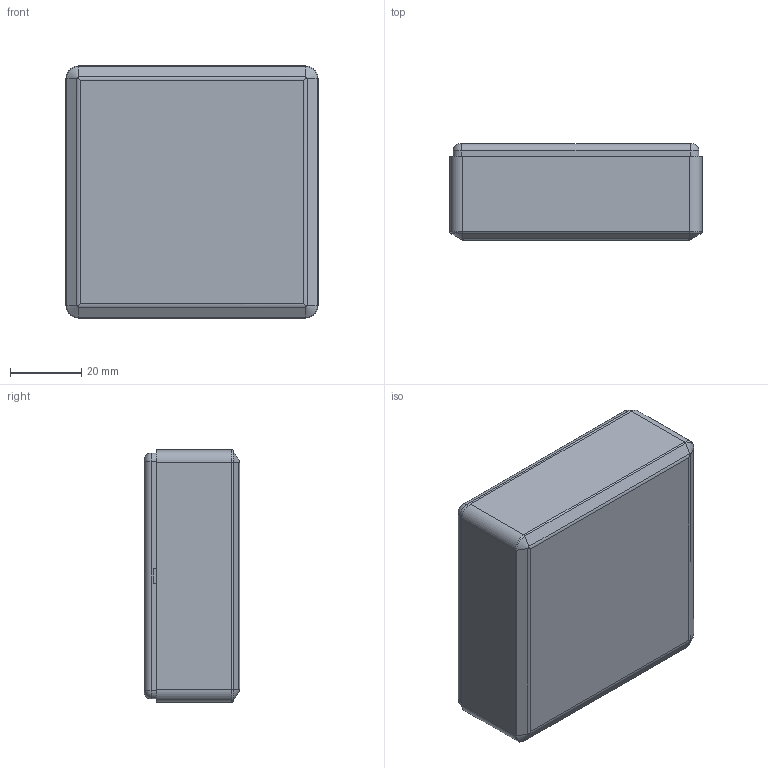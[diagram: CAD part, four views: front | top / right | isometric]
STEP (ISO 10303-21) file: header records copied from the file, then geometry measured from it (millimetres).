
FILE_DESCRIPTION (( 'STEP AP214' ), '1' );
FILE_NAME ('Conjunt PP118.STEP', '2018-06-07T06:27:02', ( 'aaa' ), ( '' ), 'SwSTEP 2.0', 'SolidWorks 2013', '' );
FILE_SCHEMA (( 'AUTOMOTIVE_DESIGN' ));
Length unit declared in the file: millimetre
Products named in the file (4): Cos PP118; Conjunt PP118; Cargol 2,2x6,95 PP118; Tapa PP118
Assembly tree (6 placements, depth 2):
  Conjunt PP118
    Cos PP118
    Tapa PP118
    Cargol 2,2x6,95 PP118  x4
Bounding box: 71 x 27 x 71 mm (x, y, z)
Volume: 35511.7 mm3; surface area: 36422.6 mm2
Topology: 6 solids, 6 shells, 428 faces, 950 edges, 556 vertices
Faces by surface type: cone 172, plane 126, cylinder 114, torus 12, bspline 4
Entity records: 8860 total; most frequent: CARTESIAN_POINT 2846, DIRECTION 1332, ORIENTED_EDGE 1132, EDGE_CURVE 566, AXIS2_PLACEMENT_3D 519, VERTEX_POINT 349, EDGE_LOOP 295, VECTOR 294
